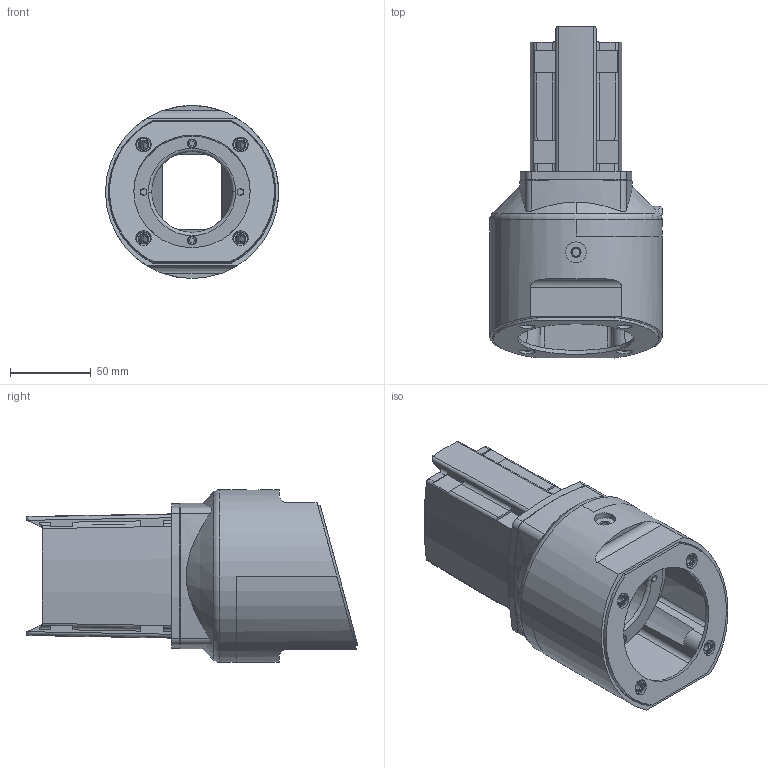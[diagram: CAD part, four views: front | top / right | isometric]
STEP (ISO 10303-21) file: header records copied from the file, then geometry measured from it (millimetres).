
FILE_DESCRIPTION((''),'2;1');
FILE_NAME('1015300013','2014-08-06T',('Stephanie.Hoppe'),(''),'PRO/ENGINEER BY PARAMETRIC TECHNOLOGY CORPORATION, 2012360','PRO/ENGINEER BY PARAMETRIC TECHNOLOGY CORPORATION, 2012360','');
FILE_SCHEMA(('AUTOMOTIVE_DESIGN { 1 0 10303 214 1 1 1 1 }'));
Length unit declared in the file: millimetre
Products named in the file (1): 1015300013
Bounding box: 107 x 205.26 x 107 mm (x, y, z)
Volume: 615457.1 mm3; surface area: 152396.8 mm2
Topology: 2 solids, 5 shells, 795 faces, 2058 edges, 1294 vertices
Faces by surface type: cylinder 309, plane 280, cone 96, torus 52, bspline 34, sphere 20, revolution 4
Entity records: 32160 total; most frequent: CARTESIAN_POINT 7626, ORIENTED_EDGE 4096, DIRECTION 3927, EDGE_CURVE 2048, AXIS2_PLACEMENT_3D 1500, VERTEX_POINT 1294, VECTOR 923, LINE 923
